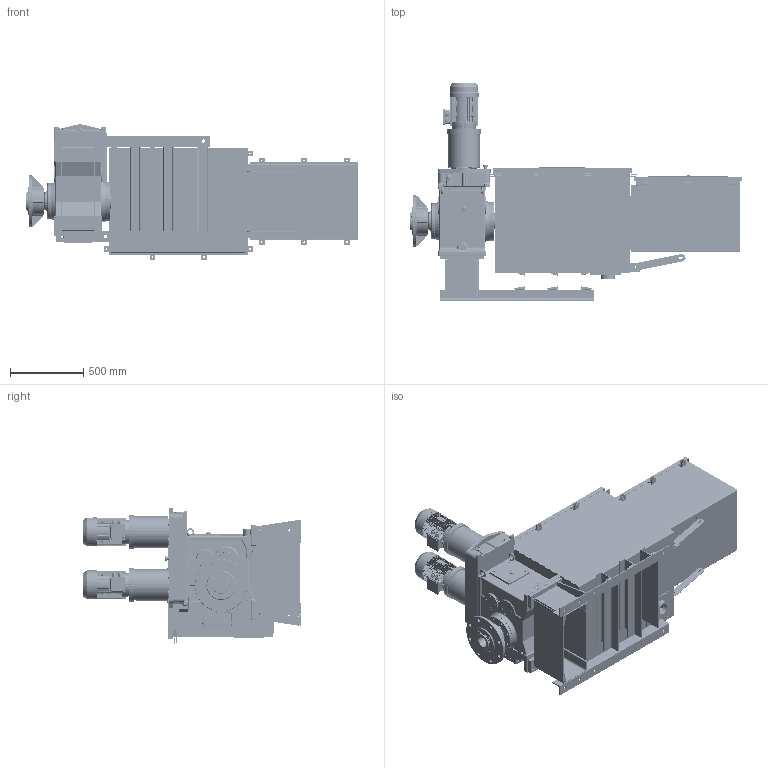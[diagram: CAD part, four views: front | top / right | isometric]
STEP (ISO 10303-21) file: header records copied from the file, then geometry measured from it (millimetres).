
FILE_DESCRIPTION(/* description */ (''),/* implementation_level */ '2;1');
FILE_NAME(/* name */ 'K:\NEMANJA\CABLE REEL\CABLE REEL DA\0700-6\07006002 DAPR-MCGBSR\STEP\75935.stp',/* time_stamp */ '2017-03-16T12:08:09+01:00',/* author */ ('milman01'),/* organization */ ('Hillmar Industries Ltd.'),/* preprocessor_version */ 'ST-DEVELOPER v16.1',/* originating_system */ 'Autodesk Inventor 2016',/* authorisation */ '');
FILE_SCHEMA (('AUTOMOTIVE_DESIGN { 1 0 10303 214 3 1 1 }'));
Products named in the file (1): 75935
Bounding box: 2259.67 x 1482.55 x 919.47 mm (x, y, z)
Volume: 77223390.1 mm3; surface area: 21961614.8 mm2
Topology: 24 solids, 24 shells, 9916 faces, 27166 edges, 17549 vertices
Faces by surface type: plane 6478, cylinder 1975, cone 627, bspline 529, torus 276, sphere 31
Full cylindrical faces by diameter (mm): 3 x8, 7 x3, 8 x26, 8.376 x18, 8.731 x1, 9 x16, 10 x26, 10.106 x85, 10.38 x2, 11 x42, 12 x16, 12.5 x6, 13 x42, 13.2 x2, 13.5 x8, 14 x28, 15 x10, 17.294 x4, 18 x4, 18.256 x3, 18.38 x3, 20 x21, 20.5 x4, 21.336 x1, 22 x24, 22.225 x1, 22.3 x3, 22.631 x1, 23.812 x1, 24 x8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
Entity records: 332716 total; most frequent: CARTESIAN_POINT 78779, ORIENTED_EDGE 51766, DIRECTION 47604, EDGE_CURVE 25844, VERTEX_POINT 17154, LINE 16482, VECTOR 16482, AXIS2_PLACEMENT_3D 15561
